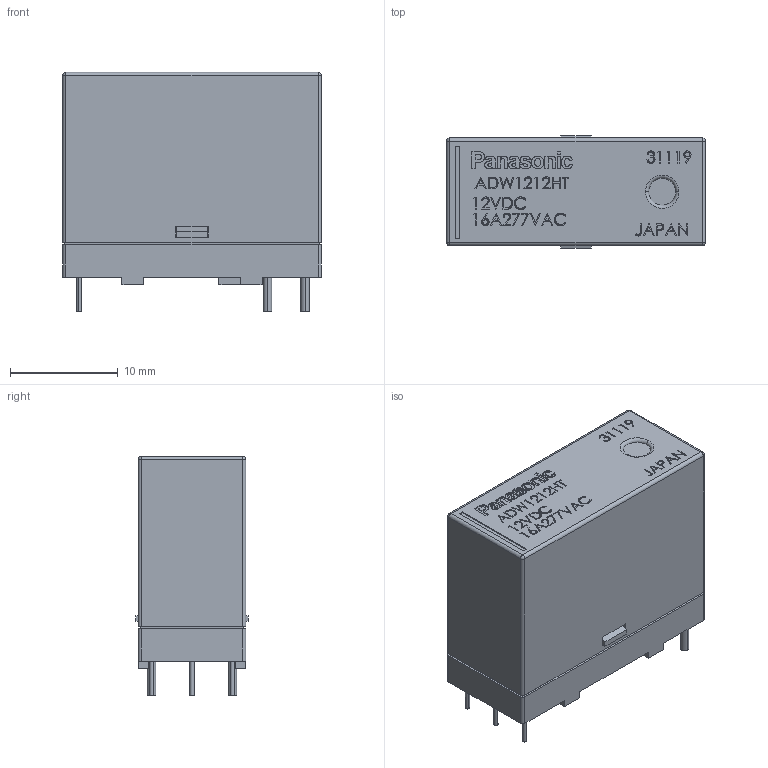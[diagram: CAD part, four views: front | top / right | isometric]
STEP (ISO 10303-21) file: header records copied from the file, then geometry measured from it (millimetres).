
FILE_DESCRIPTION (( 'STEP AP214' ), '1' );
FILE_NAME ('User Library-ADW1212HT.STEP', '2022-02-28T21:01:21', ( '' ), ( '' ), 'SwSTEP 2.0', 'SolidWorks 2021', '' );
FILE_SCHEMA (( 'AUTOMOTIVE_DESIGN' ));
Length unit declared in the file: millimetre
Products named in the file (3): User Library-ADW1212HT; Free-Models; ADW1212
Assembly tree (2 placements, depth 3):
  User Library-ADW1212HT
    Free-Models
      ADW1212
Bounding box: 24 x 10.4 x 22.2 mm (x, y, z)
Volume: 4560 mm3; surface area: 1868.2 mm2
Topology: 1 solids, 1 shells, 604 faces, 1592 edges, 1054 vertices
Faces by surface type: plane 395, bspline 181, cylinder 22, sphere 4, torus 2
Entity records: 39754 total; most frequent: CARTESIAN_POINT 19297, ORIENTED_EDGE 3176, DIRECTION 2128, EDGE_CURVE 1588, VECTOR 1174, LINE 1174, VERTEX_POINT 1054, EDGE_LOOP 672
